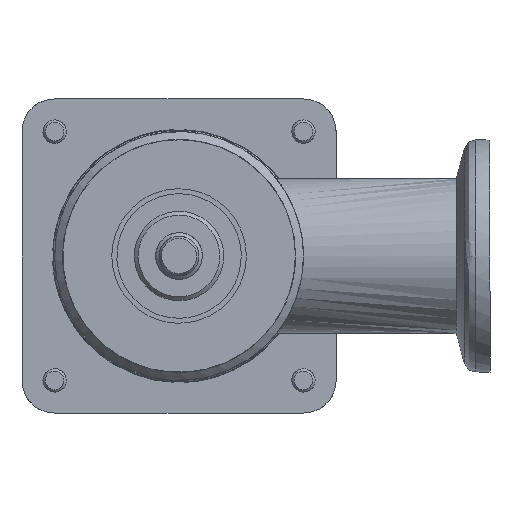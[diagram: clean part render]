
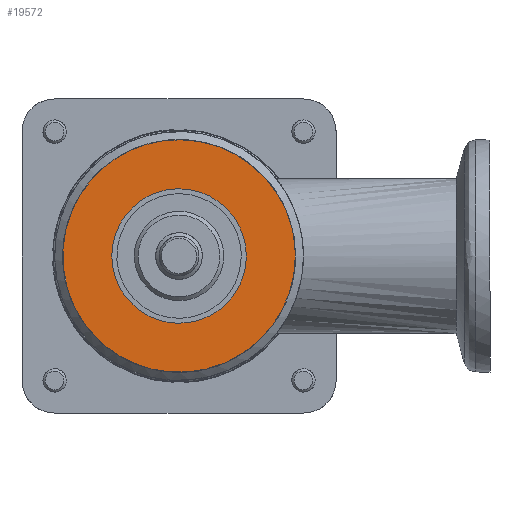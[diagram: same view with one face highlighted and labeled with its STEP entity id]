
A CAD part, front view. The second image highlights one B-rep face of the part: STEP entity #19572.
In plain terms, the highlighted free-form (B-spline) face has degree [1, 1] with [2, 2] control points.
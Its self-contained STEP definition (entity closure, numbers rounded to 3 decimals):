
#19514=CARTESIAN_POINT('V24',(0.,8.65,0.0)
   );
#19515=VERTEX_POINT('V24',#19514);
#19521=CARTESIAN_POINT('E39',(0.,8.65,0.0)
   );
#19522=CARTESIAN_POINT('E39',(0.,8.65,
   14.982));
#19523=CARTESIAN_POINT('E39',(0.,-4.325,
   7.491));
#19524=CARTESIAN_POINT('E39',(0.,-17.3,
   0.));
#19525=CARTESIAN_POINT('E39',(0.,-4.325,
   -7.491));
#19526=CARTESIAN_POINT('E39',(0.,8.65,
   -14.982));
#19527=CARTESIAN_POINT('E39',(0.,8.65,0.0)
   );
#19535=(BOUNDED_CURVE()B_SPLINE_CURVE(2,(#19521,#19522,#19523,
   #19524,#19525,#19526,#19527),.CIRCULAR_ARC.,.T.,.U.)
   B_SPLINE_CURVE_WITH_KNOTS((3,2,2,3),(0.0,0.333,
   0.667,1.0),.UNSPECIFIED.)CURVE()
   GEOMETRIC_REPRESENTATION_ITEM()RATIONAL_B_SPLINE_CURVE((1.0,
   0.5,1.0,0.5,1.0,0.5,1.0)
   )REPRESENTATION_ITEM('E39'));
#19536=EDGE_CURVE('E39',#19515,#19515,#19535,.T.);
#19543=CARTESIAN_POINT('F22',(0.,-16.452,
   16.452));
#19544=CARTESIAN_POINT('F22',(0.,16.452,
   16.452));
#19545=CARTESIAN_POINT('F22',(0.,-16.452,
   -16.452));
#19546=CARTESIAN_POINT('F22',(0.,16.452,
   -16.452));
#19547=QUASI_UNIFORM_SURFACE('F22',1,1,((#19543,#19545),(#19544,
   #19546)),.PLANE_SURF.,.F.,.F.,.U.);
#19548=CARTESIAN_POINT('V25',(0.,14.956,0.0)
   );
#19549=VERTEX_POINT('V25',#19548);
#19550=CARTESIAN_POINT('E40',(0.,14.956,0.0)
   );
#19551=CARTESIAN_POINT('E40',(0.,14.956,
   25.905));
#19552=CARTESIAN_POINT('E40',(0.,-7.478,
   12.952));
#19553=CARTESIAN_POINT('E40',(0.,-29.912,
   0.));
#19554=CARTESIAN_POINT('E40',(0.,-7.478,
   -12.952));
#19555=CARTESIAN_POINT('E40',(0.,14.956,
   -25.905));
#19556=CARTESIAN_POINT('E40',(0.,14.956,0.0)
   );
#19564=(BOUNDED_CURVE()B_SPLINE_CURVE(2,(#19550,#19551,#19552,
   #19553,#19554,#19555,#19556),.CIRCULAR_ARC.,.T.,.U.)
   B_SPLINE_CURVE_WITH_KNOTS((3,2,2,3),(0.0,28.02,
   56.04,84.06),.UNSPECIFIED.)CURVE()
   GEOMETRIC_REPRESENTATION_ITEM()RATIONAL_B_SPLINE_CURVE((1.0,
   0.5,1.0,0.5,1.0,0.5,1.0)
   )REPRESENTATION_ITEM('E40'));
#19565=EDGE_CURVE('E40',#19549,#19549,#19564,.T.);
#19566=ORIENTED_EDGE('E40',*,*,#19565,.T.);
#19567=EDGE_LOOP('F22',(#19566));
#19568=FACE_OUTER_BOUND('F22',#19567,.F.);
#19569=ORIENTED_EDGE('E39',*,*,#19536,.F.);
#19570=EDGE_LOOP('F22',(#19569));
#19571=FACE_BOUND('F22',#19570,.F.);
#19572=ADVANCED_FACE('F22',(#19568,#19571),#19547,.T.);
